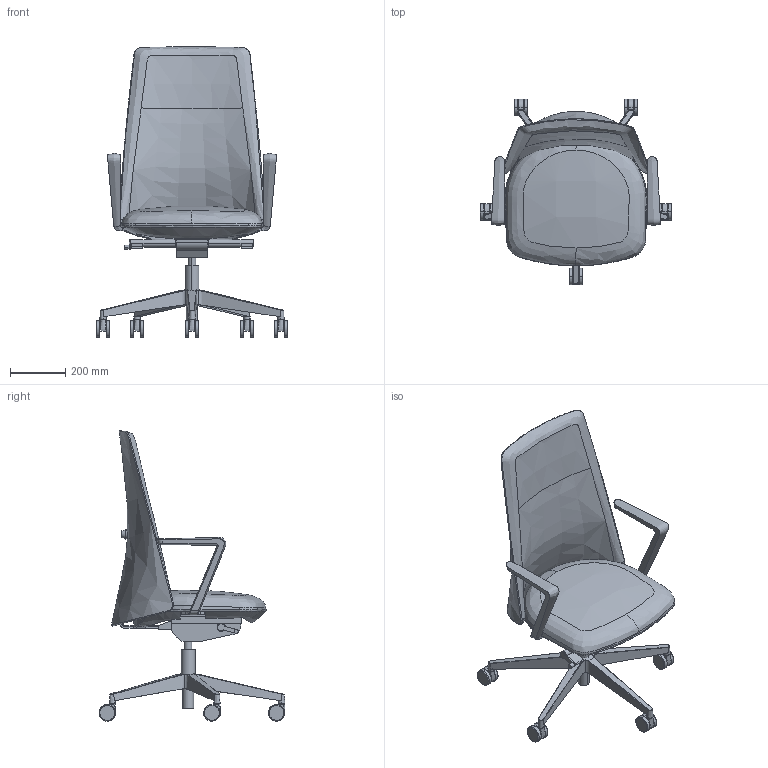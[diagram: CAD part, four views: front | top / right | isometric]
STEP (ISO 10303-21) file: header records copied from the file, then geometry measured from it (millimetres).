
FILE_DESCRIPTION(/* description */ (''),/* implementation_level */ '2;1');
FILE_NAME(/* name */ 'ME9B97~1',/* time_stamp */ '2016-11-30T15:54:43+01:00',/* author */ (''),/* organization */ (''),/* preprocessor_version */ 'ST-DEVELOPER v15',/* originating_system */ '',/* authorisation */ '');
FILE_SCHEMA (('CONFIG_CONTROL_DESIGN'));
Length unit declared in the file: millimetre
Products named in the file (1): Document
Bounding box: 694.82 x 673.73 x 1051.81 mm (x, y, z)
Volume: 35065507.5 mm3; surface area: 2310464.9 mm2
Topology: 15 solids, 38 shells, 345 faces, 835 edges, 515 vertices
Faces by surface type: bspline 229, plane 116
Entity records: 22107 total; most frequent: CARTESIAN_POINT 17187, ORIENTED_EDGE 1523, EDGE_CURVE 817, VERTEX_POINT 509, B_SPLINE_CURVE_WITH_KNOTS 424, EDGE_LOOP 346, ADVANCED_FACE 345, FACE_OUTER_BOUND 345
